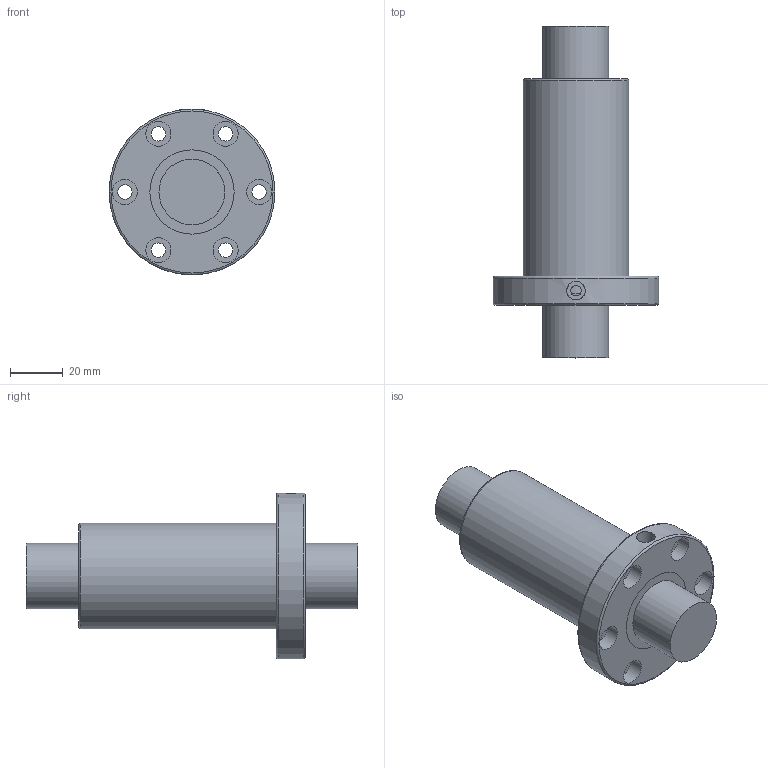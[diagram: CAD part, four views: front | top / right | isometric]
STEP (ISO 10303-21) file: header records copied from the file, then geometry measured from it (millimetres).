
FILE_DESCRIPTION(/* description */ (''),/* implementation_level */ '2;1');
FILE_NAME(/* name */ 'OFI02505-4.stp',/* time_stamp */ '2017-03-13T10:43:39+08:00',/* author */ (''),/* organization */ (''),/* preprocessor_version */ 'ST-DEVELOPER v11',/* originating_system */ 'SIEMENS UGS NX 6.0',/* authorisation */ '');
FILE_SCHEMA (('CONFIG_CONTROL_DESIGN'));
Length unit declared in the file: millimetre
Products named in the file (1): OFI02505-4
Bounding box: 63 x 126 x 63 mm (x, y, z)
Volume: 144631.1 mm3; surface area: 38887.7 mm2
Topology: 4 solids, 4 shells, 45 faces, 90 edges, 60 vertices
Faces by surface type: cylinder 24, plane 18, torus 3
Full cylindrical faces by diameter (mm): 4 x1, 5.5 x6, 7 x1, 9.5 x6, 25 x4, 32 x4, 40 x1, 63 x1
Entity records: 1232 total; most frequent: CARTESIAN_POINT 273, DIRECTION 196, ORIENTED_EDGE 112, EDGE_LOOP 100, FACE_BOUND 97, AXIS2_PLACEMENT_3D 97, EDGE_CURVE 56, VERTEX_POINT 54
